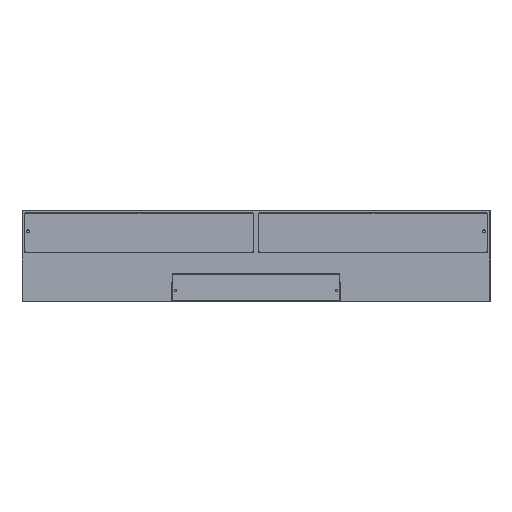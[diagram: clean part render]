
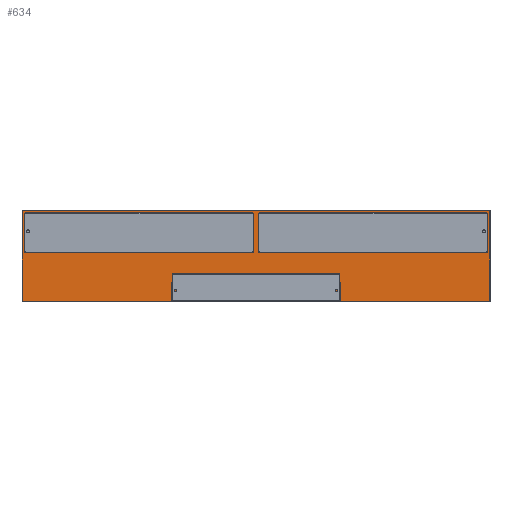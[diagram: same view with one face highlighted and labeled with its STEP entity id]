
A CAD part, top view. The second image highlights one B-rep face of the part: STEP entity #634.
In plain terms, the highlighted planar face has unit normal (0, 0, 1).
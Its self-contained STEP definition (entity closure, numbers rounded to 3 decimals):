
#161=DIRECTION('',(1.,0.,0.));
#162=VECTOR('',#161,364.);
#163=CARTESIAN_POINT('',(5.5,6.,8.));
#164=LINE('',#163,#162);
#165=CARTESIAN_POINT('',(369.5,8.,8.));
#166=DIRECTION('',(0.,0.,1.));
#167=DIRECTION('',(0.,-1.,0.));
#168=AXIS2_PLACEMENT_3D('',#165,#166,#167);
#170=DIRECTION('',(0.,1.,0.));
#171=VECTOR('',#170,59.);
#172=CARTESIAN_POINT('',(371.5,8.,8.));
#173=LINE('',#172,#171);
#174=CARTESIAN_POINT('',(369.5,67.,8.));
#175=DIRECTION('',(0.,0.,1.));
#176=DIRECTION('',(1.,0.,0.));
#177=AXIS2_PLACEMENT_3D('',#174,#175,#176);
#179=DIRECTION('',(-1.,0.,0.));
#180=VECTOR('',#179,364.);
#181=CARTESIAN_POINT('',(369.5,69.,8.));
#182=LINE('',#181,#180);
#183=CARTESIAN_POINT('',(5.5,67.,8.));
#184=DIRECTION('',(0.,0.,1.));
#185=DIRECTION('',(0.,1.,0.));
#186=AXIS2_PLACEMENT_3D('',#183,#184,#185);
#188=DIRECTION('',(0.,-1.,0.));
#189=VECTOR('',#188,59.);
#190=CARTESIAN_POINT('',(3.5,67.,8.));
#191=LINE('',#190,#189);
#192=CARTESIAN_POINT('',(5.5,8.,8.));
#193=DIRECTION('',(0.,0.,1.));
#194=DIRECTION('',(-1.,0.,0.));
#195=AXIS2_PLACEMENT_3D('',#192,#193,#194);
#197=DIRECTION('',(-1.,0.,0.));
#198=VECTOR('',#197,364.);
#199=CARTESIAN_POINT('',(-5.5,69.,8.));
#200=LINE('',#199,#198);
#201=CARTESIAN_POINT('',(-369.5,67.,8.));
#202=DIRECTION('',(0.,0.,1.));
#203=DIRECTION('',(0.,1.,0.));
#204=AXIS2_PLACEMENT_3D('',#201,#202,#203);
#206=DIRECTION('',(0.,-1.,0.));
#207=VECTOR('',#206,59.);
#208=CARTESIAN_POINT('',(-371.5,67.,8.));
#209=LINE('',#208,#207);
#210=CARTESIAN_POINT('',(-369.5,8.,8.));
#211=DIRECTION('',(0.,0.,1.));
#212=DIRECTION('',(-1.,0.,0.));
#213=AXIS2_PLACEMENT_3D('',#210,#211,#212);
#215=DIRECTION('',(1.,0.,0.));
#216=VECTOR('',#215,364.);
#217=CARTESIAN_POINT('',(-369.5,6.,8.));
#218=LINE('',#217,#216);
#219=CARTESIAN_POINT('',(-5.5,8.,8.));
#220=DIRECTION('',(0.,0.,1.));
#221=DIRECTION('',(0.,-1.,0.));
#222=AXIS2_PLACEMENT_3D('',#219,#220,#221);
#224=DIRECTION('',(0.,1.,0.));
#225=VECTOR('',#224,59.);
#226=CARTESIAN_POINT('',(-3.5,8.,8.));
#227=LINE('',#226,#225);
#228=CARTESIAN_POINT('',(-5.5,67.,8.));
#229=DIRECTION('',(0.,0.,1.));
#230=DIRECTION('',(1.,0.,0.));
#231=AXIS2_PLACEMENT_3D('',#228,#229,#230);
#233=DIRECTION('',(0.,-1.,0.));
#234=VECTOR('',#233,144.4);
#235=CARTESIAN_POINT('',(374.7,72.2,8.));
#236=LINE('',#235,#234);
#237=DIRECTION('',(1.,0.,0.));
#238=VECTOR('',#237,749.4);
#239=CARTESIAN_POINT('',(-374.7,-72.2,8.));
#240=LINE('',#239,#238);
#241=DIRECTION('',(0.,1.,0.));
#242=VECTOR('',#241,144.4);
#243=CARTESIAN_POINT('',(-374.7,-72.2,8.));
#244=LINE('',#243,#242);
#245=DIRECTION('',(-1.,0.,0.));
#246=VECTOR('',#245,749.4);
#247=CARTESIAN_POINT('',(374.7,72.2,8.));
#248=LINE('',#247,#246);
#249=CARTESIAN_POINT('',(5.5,-47.5,8.));
#250=DIRECTION('',(0.,0.,1.));
#251=DIRECTION('',(1.,0.,0.));
#252=AXIS2_PLACEMENT_3D('',#249,#250,#251);
#254=CARTESIAN_POINT('',(5.5,-47.5,8.));
#255=DIRECTION('',(0.,0.,1.));
#256=DIRECTION('',(-1.,0.,0.));
#257=AXIS2_PLACEMENT_3D('',#254,#255,#256);
#283=CARTESIAN_POINT('',(374.7,-72.2,8.));
#284=CARTESIAN_POINT('',(374.7,72.2,8.));
#285=VERTEX_POINT('',#283);
#286=VERTEX_POINT('',#284);
#293=CARTESIAN_POINT('',(-374.7,72.2,8.));
#294=VERTEX_POINT('',#293);
#297=CARTESIAN_POINT('',(-374.7,-72.2,8.));
#298=VERTEX_POINT('',#297);
#339=CARTESIAN_POINT('',(5.5,6.,8.));
#340=CARTESIAN_POINT('',(369.5,6.,8.));
#341=VERTEX_POINT('',#339);
#342=VERTEX_POINT('',#340);
#343=CARTESIAN_POINT('',(371.5,8.,8.));
#344=CARTESIAN_POINT('',(371.5,67.,8.));
#345=VERTEX_POINT('',#343);
#346=VERTEX_POINT('',#344);
#347=CARTESIAN_POINT('',(369.5,69.,8.));
#348=CARTESIAN_POINT('',(5.5,69.,8.));
#349=VERTEX_POINT('',#347);
#350=VERTEX_POINT('',#348);
#351=CARTESIAN_POINT('',(3.5,67.,8.));
#352=CARTESIAN_POINT('',(3.5,8.,8.));
#353=VERTEX_POINT('',#351);
#354=VERTEX_POINT('',#352);
#355=CARTESIAN_POINT('',(-5.5,6.,8.));
#356=CARTESIAN_POINT('',(-369.5,6.,8.));
#357=VERTEX_POINT('',#355);
#358=VERTEX_POINT('',#356);
#359=CARTESIAN_POINT('',(-371.5,8.,8.));
#360=CARTESIAN_POINT('',(-371.5,67.,8.));
#361=VERTEX_POINT('',#359);
#362=VERTEX_POINT('',#360);
#363=CARTESIAN_POINT('',(-369.5,69.,8.));
#364=CARTESIAN_POINT('',(-5.5,69.,8.));
#365=VERTEX_POINT('',#363);
#366=VERTEX_POINT('',#364);
#367=CARTESIAN_POINT('',(-3.5,67.,8.));
#368=CARTESIAN_POINT('',(-3.5,8.,8.));
#369=VERTEX_POINT('',#367);
#370=VERTEX_POINT('',#368);
#371=CARTESIAN_POINT('',(4.2,-47.5,8.));
#372=CARTESIAN_POINT('',(6.8,-47.5,8.));
#373=VERTEX_POINT('',#371);
#374=VERTEX_POINT('',#372);
#579=CARTESIAN_POINT('',(0.,0.,8.));
#580=DIRECTION('',(0.,0.,1.));
#581=DIRECTION('',(1.,0.,0.));
#582=AXIS2_PLACEMENT_3D('',#579,#580,#581);
#583=PLANE('',#582);
#585=ORIENTED_EDGE('',*,*,#584,.T.);
#586=ORIENTED_EDGE('',*,*,#560,.F.);
#588=ORIENTED_EDGE('',*,*,#587,.T.);
#589=ORIENTED_EDGE('',*,*,#441,.F.);
#590=EDGE_LOOP('',(#585,#586,#588,#589));
#591=FACE_OUTER_BOUND('',#590,.F.);
#593=ORIENTED_EDGE('',*,*,#592,.T.);
#595=ORIENTED_EDGE('',*,*,#594,.T.);
#597=ORIENTED_EDGE('',*,*,#596,.T.);
#599=ORIENTED_EDGE('',*,*,#598,.T.);
#601=ORIENTED_EDGE('',*,*,#600,.T.);
#603=ORIENTED_EDGE('',*,*,#602,.T.);
#605=ORIENTED_EDGE('',*,*,#604,.T.);
#607=ORIENTED_EDGE('',*,*,#606,.T.);
#608=EDGE_LOOP('',(#593,#595,#597,#599,#601,#603,#605,#607));
#609=FACE_BOUND('',#608,.F.);
#611=ORIENTED_EDGE('',*,*,#610,.T.);
#613=ORIENTED_EDGE('',*,*,#612,.T.);
#615=ORIENTED_EDGE('',*,*,#614,.T.);
#617=ORIENTED_EDGE('',*,*,#616,.T.);
#619=ORIENTED_EDGE('',*,*,#618,.T.);
#621=ORIENTED_EDGE('',*,*,#620,.T.);
#623=ORIENTED_EDGE('',*,*,#622,.T.);
#625=ORIENTED_EDGE('',*,*,#624,.T.);
#626=EDGE_LOOP('',(#611,#613,#615,#617,#619,#621,#623,#625));
#627=FACE_BOUND('',#626,.F.);
#629=ORIENTED_EDGE('',*,*,#628,.T.);
#631=ORIENTED_EDGE('',*,*,#630,.T.);
#632=EDGE_LOOP('',(#629,#631));
#633=FACE_BOUND('',#632,.F.);
#634=ADVANCED_FACE('',(#591,#609,#627,#633),#583,.T.);
#169=CIRCLE('',#168,2.);
#178=CIRCLE('',#177,2.);
#187=CIRCLE('',#186,2.);
#196=CIRCLE('',#195,2.);
#205=CIRCLE('',#204,2.);
#214=CIRCLE('',#213,2.);
#223=CIRCLE('',#222,2.);
#232=CIRCLE('',#231,2.);
#253=CIRCLE('',#252,1.3);
#258=CIRCLE('',#257,1.3);
#441=EDGE_CURVE('',#286,#294,#248,.T.);
#560=EDGE_CURVE('',#298,#285,#240,.T.);
#584=EDGE_CURVE('',#286,#285,#236,.T.);
#587=EDGE_CURVE('',#298,#294,#244,.T.);
#592=EDGE_CURVE('',#366,#365,#200,.T.);
#594=EDGE_CURVE('',#365,#362,#205,.T.);
#596=EDGE_CURVE('',#362,#361,#209,.T.);
#598=EDGE_CURVE('',#361,#358,#214,.T.);
#600=EDGE_CURVE('',#358,#357,#218,.T.);
#602=EDGE_CURVE('',#357,#370,#223,.T.);
#604=EDGE_CURVE('',#370,#369,#227,.T.);
#606=EDGE_CURVE('',#369,#366,#232,.T.);
#610=EDGE_CURVE('',#341,#342,#164,.T.);
#612=EDGE_CURVE('',#342,#345,#169,.T.);
#614=EDGE_CURVE('',#345,#346,#173,.T.);
#616=EDGE_CURVE('',#346,#349,#178,.T.);
#618=EDGE_CURVE('',#349,#350,#182,.T.);
#620=EDGE_CURVE('',#350,#353,#187,.T.);
#622=EDGE_CURVE('',#353,#354,#191,.T.);
#624=EDGE_CURVE('',#354,#341,#196,.T.);
#628=EDGE_CURVE('',#374,#373,#253,.T.);
#630=EDGE_CURVE('',#373,#374,#258,.T.);
